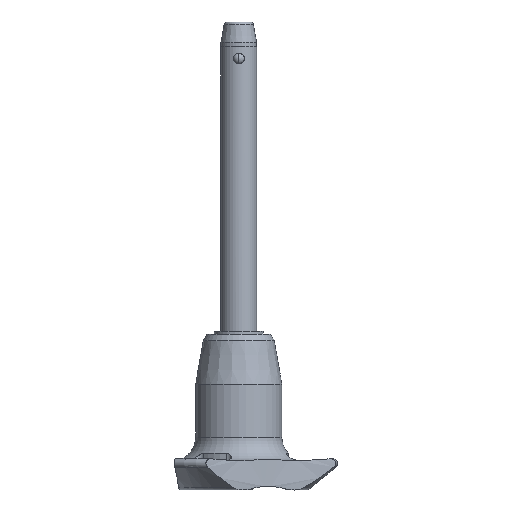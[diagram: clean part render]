
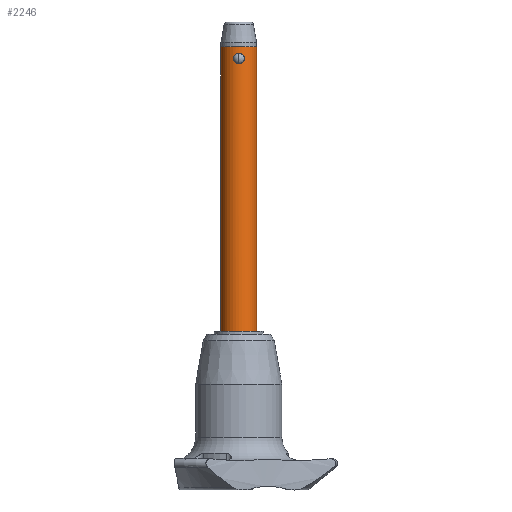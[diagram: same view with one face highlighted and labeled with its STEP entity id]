
A CAD part, front view. The second image highlights one B-rep face of the part: STEP entity #2246.
In plain terms, the highlighted cylindrical face has radius 3 mm (diameter 6 mm), a partial arc.
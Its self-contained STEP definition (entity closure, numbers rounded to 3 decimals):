
#28 = LINE ( 'NONE', #697, #1163 ) ;
#36 = CARTESIAN_POINT ( 'NONE',  ( -0.739, -2.909, 1.414 ) ) ;
#53 = DIRECTION ( 'NONE',  ( 0., 0., 1. ) ) ;
#61 = CARTESIAN_POINT ( 'NONE',  ( -0.12, -3., 1.732 ) ) ;
#161 = VERTEX_POINT ( 'NONE', #2448 ) ;
#235 = CARTESIAN_POINT ( 'NONE',  ( -0.461, -2.967, 1.63 ) ) ;
#272 = CARTESIAN_POINT ( 'NONE',  ( 3., 0., -45. ) ) ;
#273 = ORIENTED_EDGE ( 'NONE', *, *, #1680, .F. ) ;
#365 = EDGE_LOOP ( 'NONE', ( #1483, #1673, #2758, #619 ) ) ;
#369 = DIRECTION ( 'NONE',  ( 0., 0., 1. ) ) ;
#377 = DIRECTION ( 'NONE',  ( 0., 0., 1. ) ) ;
#388 = CARTESIAN_POINT ( 'NONE',  ( 0.91, -2.859, 0.626 ) ) ;
#426 = VERTEX_POINT ( 'NONE', #2690 ) ;
#450 = CARTESIAN_POINT ( 'NONE',  ( -0.118, -3., 0. ) ) ;
#589 = FACE_OUTER_BOUND ( 'NONE', #365, .T. ) ;
#593 = CARTESIAN_POINT ( 'NONE',  ( 0.459, -2.967, 0.101 ) ) ;
#619 = ORIENTED_EDGE ( 'NONE', *, *, #1266, .F. ) ;
#621 = CARTESIAN_POINT ( 'NONE',  ( 0.563, -2.948, 0.162 ) ) ;
#629 = CARTESIAN_POINT ( 'NONE',  ( 0., 0., -45. ) ) ;
#651 = CARTESIAN_POINT ( 'NONE',  ( -0.563, -2.948, 1.57 ) ) ;
#664 = CARTESIAN_POINT ( 'NONE',  ( -0.564, -2.948, 0.162 ) ) ;
#697 = CARTESIAN_POINT ( 'NONE',  ( 3., 0., -45. ) ) ;
#726 = VERTEX_POINT ( 'NONE', #1064 ) ;
#780 = CARTESIAN_POINT ( 'NONE',  ( 0.12, -3., 1.732 ) ) ;
#821 = CARTESIAN_POINT ( 'NONE',  ( 0.74, -2.909, 1.414 ) ) ;
#887 = CIRCLE ( 'NONE', #930, 3. ) ;
#907 = ORIENTED_EDGE ( 'NONE', *, *, #2053, .F. ) ;
#918 = CARTESIAN_POINT ( 'NONE',  ( -0.911, -2.859, 0.63 ) ) ;
#926 = CARTESIAN_POINT ( 'NONE',  ( 0., -3., 1.732 ) ) ;
#930 = AXIS2_PLACEMENT_3D ( 'NONE', #1741, #1089, #2346 ) ;
#935 = EDGE_CURVE ( 'NONE', #2023, #426, #28, .T. ) ;
#990 = CARTESIAN_POINT ( 'NONE',  ( 0.812, -2.888, 1.317 ) ) ;
#1020 = EDGE_LOOP ( 'NONE', ( #907, #273 ) ) ;
#1022 = AXIS2_PLACEMENT_3D ( 'NONE', #629, #369, #1938 ) ;
#1064 = CARTESIAN_POINT ( 'NONE',  ( -3., 0., 2.8 ) ) ;
#1089 = DIRECTION ( 'NONE',  ( 0., 0., 1. ) ) ;
#1139 = CARTESIAN_POINT ( 'NONE',  ( -0.91, -2.859, 1.105 ) ) ;
#1163 = VECTOR ( 'NONE', #53, 1000. ) ;
#1232 = CARTESIAN_POINT ( 'NONE',  ( 0., -3., 0. ) ) ;
#1247 = EDGE_CURVE ( 'NONE', #2023, #2420, #2423, .T. ) ;
#1257 = CARTESIAN_POINT ( 'NONE',  ( 0.937, -2.85, 0.744 ) ) ;
#1266 = EDGE_CURVE ( 'NONE', #726, #426, #887, .T. ) ;
#1288 = CARTESIAN_POINT ( 'NONE',  ( 0., 0., -45. ) ) ;
#1320 = CARTESIAN_POINT ( 'NONE',  ( 0., -3., 0. ) ) ;
#1353 = VECTOR ( 'NONE', #377, 1000. ) ;
#1358 = CARTESIAN_POINT ( 'NONE',  ( -0.812, -2.889, 0.414 ) ) ;
#1449 = AXIS2_PLACEMENT_3D ( 'NONE', #1288, #1524, #1905 ) ;
#1473 = CARTESIAN_POINT ( 'NONE',  ( 0.738, -2.909, 0.317 ) ) ;
#1483 = ORIENTED_EDGE ( 'NONE', *, *, #1587, .F. ) ;
#1502 = CARTESIAN_POINT ( 'NONE',  ( 0.937, -2.85, 0.985 ) ) ;
#1524 = DIRECTION ( 'NONE',  ( 0., 0., -1. ) ) ;
#1587 = EDGE_CURVE ( 'NONE', #2420, #726, #1890, .T. ) ;
#1673 = ORIENTED_EDGE ( 'NONE', *, *, #1247, .F. ) ;
#1680 = EDGE_CURVE ( 'NONE', #161, #2103, #2482, .T. ) ;
#1691 = CYLINDRICAL_SURFACE ( 'NONE', #1022, 3. ) ;
#1736 = CARTESIAN_POINT ( 'NONE',  ( -0.238, -2.993, 1.712 ) ) ;
#1741 = CARTESIAN_POINT ( 'NONE',  ( 0., 0., 2.8 ) ) ;
#1748 = CARTESIAN_POINT ( 'NONE',  ( -0.937, -2.85, 0.986 ) ) ;
#1754 = CARTESIAN_POINT ( 'NONE',  ( 0., -3., 1.732 ) ) ;
#1760 = CARTESIAN_POINT ( 'NONE',  ( -0.74, -2.909, 0.318 ) ) ;
#1773 = CARTESIAN_POINT ( 'NONE',  ( 0., -3., 1.732 ) ) ;
#1862 = CARTESIAN_POINT ( 'NONE',  ( 0.118, -3., 0. ) ) ;
#1890 = LINE ( 'NONE', #2094, #1353 ) ;
#1903 = CARTESIAN_POINT ( 'NONE',  ( 0.564, -2.948, 1.57 ) ) ;
#1905 = DIRECTION ( 'NONE',  ( 1., 0., 0. ) ) ;
#1938 = DIRECTION ( 'NONE',  ( 1., 0., 0. ) ) ;
#2023 = VERTEX_POINT ( 'NONE', #272 ) ;
#2053 = EDGE_CURVE ( 'NONE', #2103, #161, #2607, .T. ) ;
#2079 = CARTESIAN_POINT ( 'NONE',  ( 0.911, -2.859, 1.103 ) ) ;
#2094 = CARTESIAN_POINT ( 'NONE',  ( -3., 0., -45. ) ) ;
#2103 = VERTEX_POINT ( 'NONE', #926 ) ;
#2246 = ADVANCED_FACE ( 'NONE', ( #589, #2535 ), #1691, .T. ) ;
#2329 = CARTESIAN_POINT ( 'NONE',  ( 0.811, -2.889, 0.412 ) ) ;
#2346 = DIRECTION ( 'NONE',  ( 1., 0., 0. ) ) ;
#2390 = CARTESIAN_POINT ( 'NONE',  ( -0.238, -2.993, 0.021 ) ) ;
#2420 = VERTEX_POINT ( 'NONE', #2437 ) ;
#2422 = CARTESIAN_POINT ( 'NONE',  ( -0.811, -2.889, 1.319 ) ) ;
#2423 = CIRCLE ( 'NONE', #1449, 3. ) ;
#2437 = CARTESIAN_POINT ( 'NONE',  ( -3., 0., -45. ) ) ;
#2448 = CARTESIAN_POINT ( 'NONE',  ( 0., -3., 0. ) ) ;
#2482 = B_SPLINE_CURVE_WITH_KNOTS ( 'NONE', 3,
 ( #1232, #1862, #2745, #593, #621, #1473, #2329, #388, #1257, #1502, #2079, #990, #821, #1903, #2760, #2719, #780, #1754 ),
 .UNSPECIFIED., .F., .F.,
 ( 4, 2, 2, 2, 2, 2, 2, 2, 4 ),
 ( 0.003, 0.003, 0.004, 0.004, 0.004, 0.005, 0.005, 0.005, 0.006 ),
 .UNSPECIFIED. ) ;
#2535 = FACE_BOUND ( 'NONE', #1020, .T. ) ;
#2606 = CARTESIAN_POINT ( 'NONE',  ( -0.937, -2.85, 0.749 ) ) ;
#2607 = B_SPLINE_CURVE_WITH_KNOTS ( 'NONE', 3,
 ( #1773, #61, #1736, #235, #651, #36, #2422, #1139, #1748, #2606, #918, #1358, #1760, #664, #2617, #2390, #450, #1320 ),
 .UNSPECIFIED., .F., .F.,
 ( 4, 2, 2, 2, 2, 2, 2, 2, 4 ),
 ( 0., 0., 0.001, 0.001, 0.001, 0.002, 0.002, 0.002, 0.003 ),
 .UNSPECIFIED. ) ;
#2617 = CARTESIAN_POINT ( 'NONE',  ( -0.46, -2.967, 0.101 ) ) ;
#2690 = CARTESIAN_POINT ( 'NONE',  ( 3., 0., 2.8 ) ) ;
#2719 = CARTESIAN_POINT ( 'NONE',  ( 0.238, -2.993, 1.712 ) ) ;
#2745 = CARTESIAN_POINT ( 'NONE',  ( 0.238, -2.993, 0.021 ) ) ;
#2758 = ORIENTED_EDGE ( 'NONE', *, *, #935, .T. ) ;
#2760 = CARTESIAN_POINT ( 'NONE',  ( 0.461, -2.966, 1.63 ) ) ;
